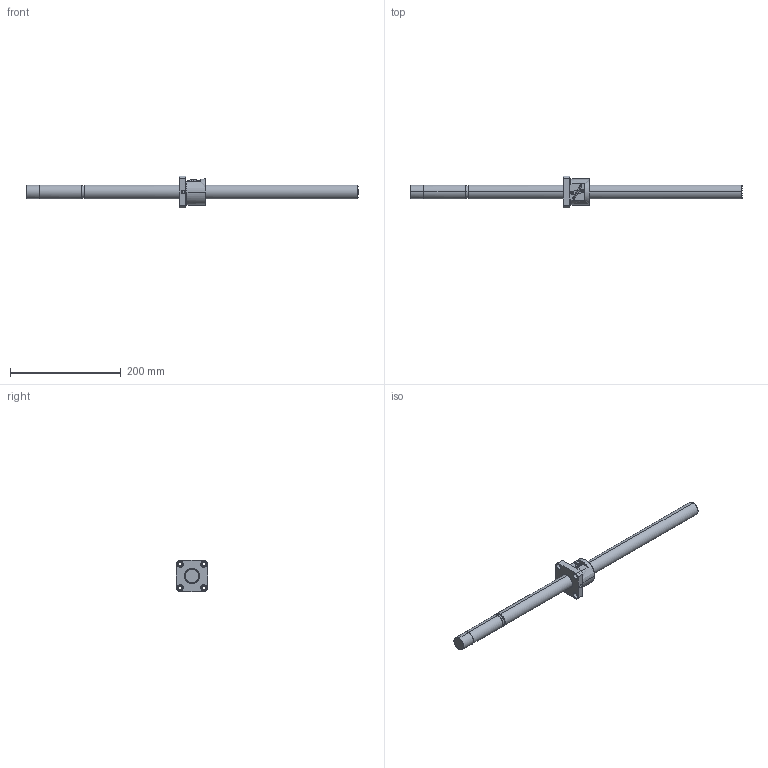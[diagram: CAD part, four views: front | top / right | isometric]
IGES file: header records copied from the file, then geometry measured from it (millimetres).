
Global section: file name: No Iges File Name specified; native system: AutoDesk Inventor R10; preprocessor: AutoDesk Inventor Iges Exporter R10; author: No Author specified; organization: No Organization specified; date: 20101224.141656; units: millimetre
Bounding box: 600 x 57 x 57 mm (x, y, z)
Surface area: 67286.4 mm2 (no closed solid volume)
Topology: 0 solids, 0 shells, 128 faces, 988 edges, 988 vertices
Faces by surface type: bspline 128
